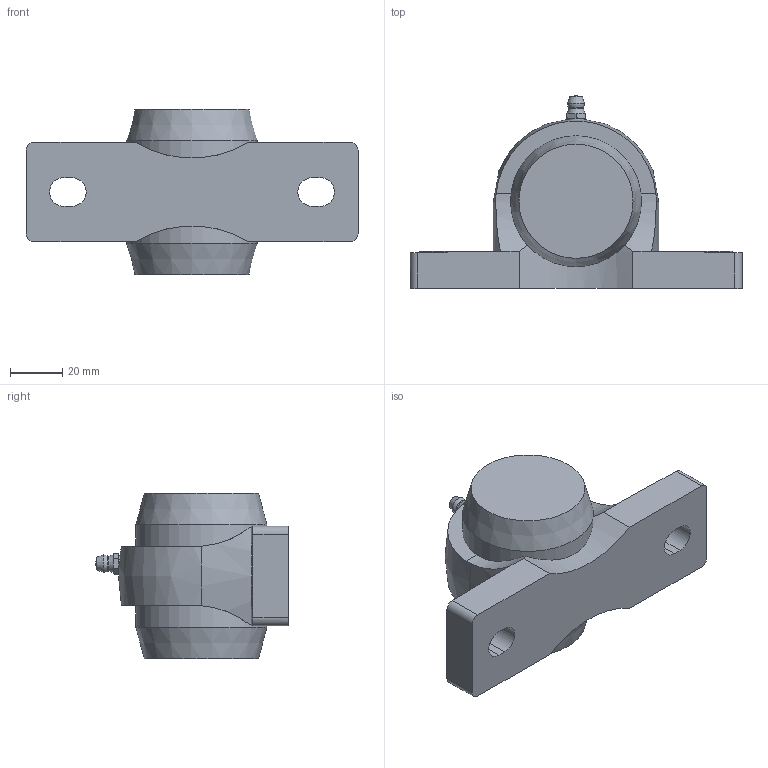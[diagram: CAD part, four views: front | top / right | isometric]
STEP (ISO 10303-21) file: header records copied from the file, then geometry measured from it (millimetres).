
FILE_DESCRIPTION(/* description */ (''),/* implementation_level */ '2;1');
FILE_NAME(/* name */ 'C:\Users\UGijyutu_200702\Desktop\77.プラスチックハウジング\MBPPL200V\MBPPL200VE\MBPPL204VE.stp',/* time_stamp */ '2023-02-10T16:28:31+09:00',/* author */ ('UGijyutu_200702'),/* organization */ (''),/* preprocessor_version */ 'ST-DEVELOPER v18',/* originating_system */ 'Autodesk Inventor 2020',/* authorisation */ '');
FILE_SCHEMA (('AUTOMOTIVE_DESIGN { 1 0 10303 214 3 1 1 }'));
Length unit declared in the file: millimetre
Products named in the file (6): MBPPL204VE; PPL204; MB4 V; 1/4-28UNF-2A; 204E; 204C
Assembly tree (5 placements, depth 2):
  MBPPL204VE
    PPL204
    MB4 V
    1/4-28UNF-2A
    204E
    204C
Bounding box: 127 x 73.8 x 63.3 mm (x, y, z)
Volume: 129650.4 mm3; surface area: 49924.6 mm2
Topology: 5 solids, 5 shells, 126 faces, 317 edges, 214 vertices
Faces by surface type: plane 62, cylinder 38, cone 19, sphere 4, torus 2, bspline 1
Full cylindrical faces by diameter (mm): 3.2 x1, 5 x2, 5.359 x1, 6.35 x1, 20 x2, 25 x1, 29 x1, 35.6 x1, 46.5 x2, 49.8 x2, 50.1 x2
Entity records: 4496 total; most frequent: CARTESIAN_POINT 1127, DIRECTION 655, ORIENTED_EDGE 632, EDGE_CURVE 316, AXIS2_PLACEMENT_3D 261, VERTEX_POINT 214, EDGE_LOOP 152, LINE 133
